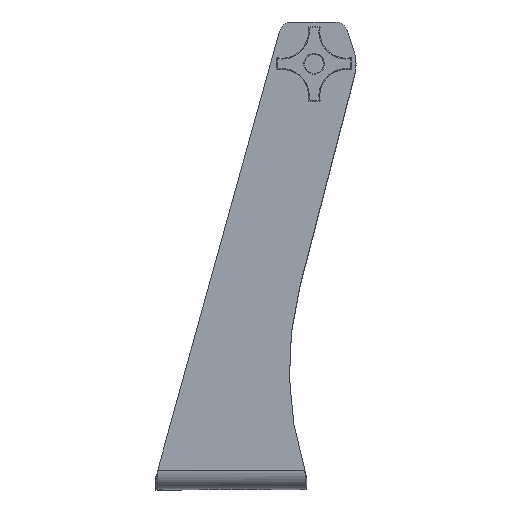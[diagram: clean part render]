
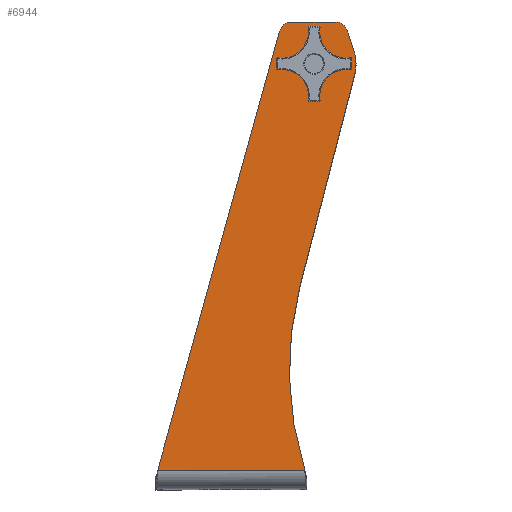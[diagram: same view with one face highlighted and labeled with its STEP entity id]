
A CAD part, top view. The second image highlights one B-rep face of the part: STEP entity #6944.
In plain terms, the highlighted planar face has unit normal (0, 0, 1) as drawn and (1, 0, 0) by its records, which use the part's own axes.
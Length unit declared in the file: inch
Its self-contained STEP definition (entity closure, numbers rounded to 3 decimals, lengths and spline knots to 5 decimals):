
#409 = CARTESIAN_POINT ( 'NONE',  ( 9.7, 3.56814, -11.72649 ) ) ;
#455 = CARTESIAN_POINT ( 'NONE',  ( 9.7, 0.563, -2.18872 ) ) ;
#712 = CARTESIAN_POINT ( 'NONE',  ( 9.7, 13.926, -1.79451 ) ) ;
#743 = CARTESIAN_POINT ( 'NONE',  ( 9.7, 6.94052, 0.42839 ) ) ;
#769 = AXIS2_PLACEMENT_3D ( 'NONE', #7291, #2183, #8157 ) ;
#866 = ORIENTED_EDGE ( 'NONE', *, *, #7571, .T. ) ;
#894 = EDGE_CURVE ( 'NONE', #8608, #10785, #6544, .T. ) ;
#944 = CARTESIAN_POINT ( 'NONE',  ( 9.7, 12.676, -2.46533 ) ) ;
#949 = VERTEX_POINT ( 'NONE', #7743 ) ;
#970 = DIRECTION ( 'NONE',  ( 0., -0.964, 0.267 ) ) ;
#1279 = DIRECTION ( 'NONE',  ( 0., 1., 0. ) ) ;
#1473 = LINE ( 'NONE', #743, #10276 ) ;
#1582 = EDGE_CURVE ( 'NONE', #8489, #949, #1473, .T. ) ;
#1661 = VERTEX_POINT ( 'NONE', #712 ) ;
#1757 = ORIENTED_EDGE ( 'NONE', *, *, #5334, .T. ) ;
#1810 = DIRECTION ( 'NONE',  ( 0., 1., 0. ) ) ;
#1836 = DIRECTION ( 'NONE',  ( 0., 0.951, 0.31 ) ) ;
#2032 = VECTOR ( 'NONE', #1836, 39.37008 ) ;
#2143 = EDGE_CURVE ( 'NONE', #1661, #8489, #9380, .T. ) ;
#2157 = VERTEX_POINT ( 'NONE', #4884 ) ;
#2178 = EDGE_CURVE ( 'NONE', #10476, #8732, #9130, .T. ) ;
#2183 = DIRECTION ( 'NONE',  ( 1., 0., 0. ) ) ;
#2310 = CARTESIAN_POINT ( 'NONE',  ( 9.7, 13.55126, -1.79451 ) ) ;
#2312 = EDGE_LOOP ( 'NONE', ( #10606, #9784, #3668, #5806, #1757, #5288, #866, #3398, #2369 ) ) ;
#2369 = ORIENTED_EDGE ( 'NONE', *, *, #2143, .T. ) ;
#2404 = CIRCLE ( 'NONE', #7576, 1.25 ) ;
#2472 = PLANE ( 'NONE',  #9361 ) ;
#2697 = VERTEX_POINT ( 'NONE', #4106 ) ;
#2952 = FACE_BOUND ( 'NONE', #2970, .T. ) ;
#2970 = EDGE_LOOP ( 'NONE', ( #9756, #7505 ) ) ;
#3106 = CARTESIAN_POINT ( 'NONE',  ( 9.7, 13.926, -11.72649 ) ) ;
#3181 = DIRECTION ( 'NONE',  ( 0., 1., 0. ) ) ;
#3182 = CARTESIAN_POINT ( 'NONE',  ( 9.7, 13.03753, -3.6619 ) ) ;
#3223 = CARTESIAN_POINT ( 'NONE',  ( 9.7, 12.31447, -3.6619 ) ) ;
#3349 = LINE ( 'NONE', #3106, #7611 ) ;
#3391 = CARTESIAN_POINT ( 'NONE',  ( 9.7, 2.10113, -7.22991 ) ) ;
#3398 = ORIENTED_EDGE ( 'NONE', *, *, #4858, .T. ) ;
#3668 = ORIENTED_EDGE ( 'NONE', *, *, #6017, .T. ) ;
#3855 = CARTESIAN_POINT ( 'NONE',  ( 9.7, 13.64147, -1.43079 ) ) ;
#4106 = CARTESIAN_POINT ( 'NONE',  ( 9.7, 13.926, -3.10022 ) ) ;
#4182 = EDGE_CURVE ( 'NONE', #949, #9845, #6155, .T. ) ;
#4325 = LINE ( 'NONE', #4655, #8595 ) ;
#4655 = CARTESIAN_POINT ( 'NONE',  ( 9.7, 6.07552, -2.04594 ) ) ;
#4803 = DIRECTION ( 'NONE',  ( 1., 0., 0. ) ) ;
#4858 = EDGE_CURVE ( 'NONE', #2697, #1661, #3349, .T. ) ;
#4869 = AXIS2_PLACEMENT_3D ( 'NONE', #409, #6377, #1279 ) ;
#4884 = CARTESIAN_POINT ( 'NONE',  ( 9.7, 6.07712, -2.04636 ) ) ;
#4940 = FACE_OUTER_BOUND ( 'NONE', #2312, .T. ) ;
#4990 = DIRECTION ( 'NONE',  ( 1., 0., 0. ) ) ;
#5105 = DIRECTION ( 'NONE',  ( 0., 1., 0. ) ) ;
#5288 = ORIENTED_EDGE ( 'NONE', *, *, #894, .T. ) ;
#5334 = EDGE_CURVE ( 'NONE', #10435, #8608, #2404, .T. ) ;
#5486 = DIRECTION ( 'NONE',  ( 0., 0.968, -0.251 ) ) ;
#5806 = ORIENTED_EDGE ( 'NONE', *, *, #10900, .T. ) ;
#5825 = CARTESIAN_POINT ( 'NONE',  ( 9.7, 12.8715, -2.46533 ) ) ;
#6017 = EDGE_CURVE ( 'NONE', #9845, #2157, #7901, .T. ) ;
#6155 = LINE ( 'NONE', #7588, #6412 ) ;
#6204 = CARTESIAN_POINT ( 'NONE',  ( 9.7, 13.65965, -3.45894 ) ) ;
#6377 = DIRECTION ( 'NONE',  ( -1., 0., 0. ) ) ;
#6412 = VECTOR ( 'NONE', #10993, 39.37008 ) ;
#6544 = LINE ( 'NONE', #3391, #2032 ) ;
#6727 = EDGE_CURVE ( 'NONE', #8732, #10476, #10532, .T. ) ;
#6904 = CIRCLE ( 'NONE', #7815, 0.37474 ) ;
#6905 = DIRECTION ( 'NONE',  ( 1., 0., 0. ) ) ;
#6944 = ADVANCED_FACE ( 'NONE', ( #2952, #4940 ), #2472, .T. ) ;
#7291 = CARTESIAN_POINT ( 'NONE',  ( 9.7, 12.676, -2.46533 ) ) ;
#7505 = ORIENTED_EDGE ( 'NONE', *, *, #6727, .F. ) ;
#7571 = EDGE_CURVE ( 'NONE', #10785, #2697, #6904, .T. ) ;
#7576 = AXIS2_PLACEMENT_3D ( 'NONE', #944, #6905, #1810 ) ;
#7588 = CARTESIAN_POINT ( 'NONE',  ( 9.7, 0.563, -11.72649 ) ) ;
#7611 = VECTOR ( 'NONE', #9059, 39.37008 ) ;
#7645 = AXIS2_PLACEMENT_3D ( 'NONE', #2310, #8284, #3181 ) ;
#7743 = CARTESIAN_POINT ( 'NONE',  ( 9.7, 0.563, 2.19784 ) ) ;
#7815 = AXIS2_PLACEMENT_3D ( 'NONE', #9902, #4803, #10740 ) ;
#7901 = CIRCLE ( 'NONE', #4869, 10. ) ;
#8157 = DIRECTION ( 'NONE',  ( 0., 1., 0. ) ) ;
#8243 = AXIS2_PLACEMENT_3D ( 'NONE', #10088, #4990, #10929 ) ;
#8284 = DIRECTION ( 'NONE',  ( 1., 0., 0. ) ) ;
#8489 = VERTEX_POINT ( 'NONE', #3855 ) ;
#8595 = VECTOR ( 'NONE', #5486, 39.37008 ) ;
#8608 = VERTEX_POINT ( 'NONE', #3182 ) ;
#8732 = VERTEX_POINT ( 'NONE', #10506 ) ;
#9059 = DIRECTION ( 'NONE',  ( 0., 0., 1. ) ) ;
#9130 = CIRCLE ( 'NONE', #8243, 0.1955 ) ;
#9361 = AXIS2_PLACEMENT_3D ( 'NONE', #10950, #10213, #5105 ) ;
#9380 = CIRCLE ( 'NONE', #7645, 0.37474 ) ;
#9756 = ORIENTED_EDGE ( 'NONE', *, *, #2178, .F. ) ;
#9784 = ORIENTED_EDGE ( 'NONE', *, *, #4182, .T. ) ;
#9845 = VERTEX_POINT ( 'NONE', #455 ) ;
#9902 = CARTESIAN_POINT ( 'NONE',  ( 9.7, 13.55126, -3.10022 ) ) ;
#10088 = CARTESIAN_POINT ( 'NONE',  ( 9.7, 12.676, -2.46533 ) ) ;
#10213 = DIRECTION ( 'NONE',  ( 1., 0., 0. ) ) ;
#10276 = VECTOR ( 'NONE', #970, 39.37008 ) ;
#10435 = VERTEX_POINT ( 'NONE', #3223 ) ;
#10476 = VERTEX_POINT ( 'NONE', #5825 ) ;
#10506 = CARTESIAN_POINT ( 'NONE',  ( 9.7, 12.4805, -2.46533 ) ) ;
#10532 = CIRCLE ( 'NONE', #769, 0.1955 ) ;
#10606 = ORIENTED_EDGE ( 'NONE', *, *, #1582, .T. ) ;
#10740 = DIRECTION ( 'NONE',  ( 0., 1., 0. ) ) ;
#10785 = VERTEX_POINT ( 'NONE', #6204 ) ;
#10900 = EDGE_CURVE ( 'NONE', #2157, #10435, #4325, .T. ) ;
#10929 = DIRECTION ( 'NONE',  ( 0., 1., 0. ) ) ;
#10950 = CARTESIAN_POINT ( 'NONE',  ( 9.7, 3.56814, -11.72649 ) ) ;
#10993 = DIRECTION ( 'NONE',  ( 0., 0., -1. ) ) ;
